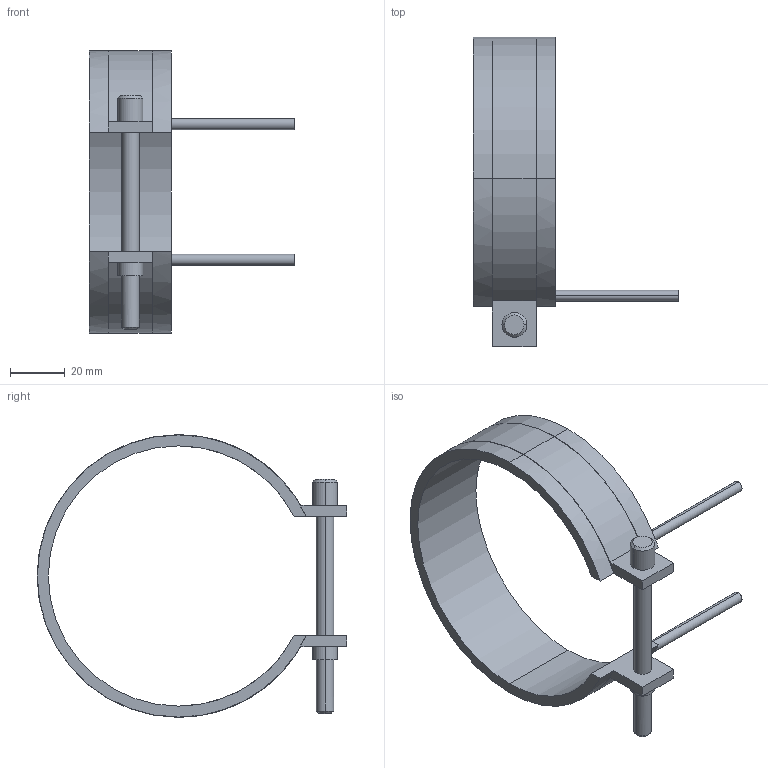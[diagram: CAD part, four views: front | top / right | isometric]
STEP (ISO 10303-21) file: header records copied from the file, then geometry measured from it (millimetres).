
FILE_DESCRIPTION(('CATIA V5 STEP Exchange'),'2;1');
FILE_NAME('C:\Users\Utente\Desktop\IO LAVORO\3D X SITO CF\X SITO\PLASTICA\RF2\14095030.stp','2021-04-06T16:05:54+00:00',('none'),('none'),'CATIA Version 5 Release 20 GA (IN-10)','CATIA V5 STEP AP203','none');
FILE_SCHEMA(('CONFIG_CONTROL_DESIGN'));
Length unit declared in the file: millimetre
Products named in the file (1): 14095030
Bounding box: 75 x 113.1 x 103.2 mm (x, y, z)
Volume: 38394.1 mm3; surface area: 22367.8 mm2
Topology: 1 solids, 1 shells, 45 faces, 116 edges, 76 vertices
Faces by surface type: cylinder 24, plane 17, cone 4
Entity records: 1406 total; most frequent: CARTESIAN_POINT 282, ORIENTED_EDGE 232, DIRECTION 195, EDGE_CURVE 116, AXIS2_PLACEMENT_3D 103, VERTEX_POINT 76, CIRCLE 61, VECTOR 52
